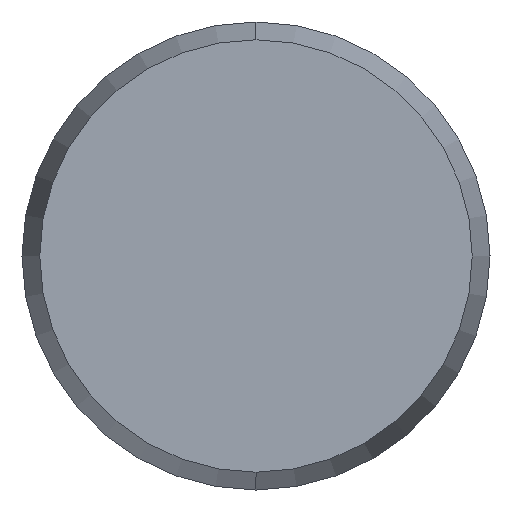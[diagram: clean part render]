
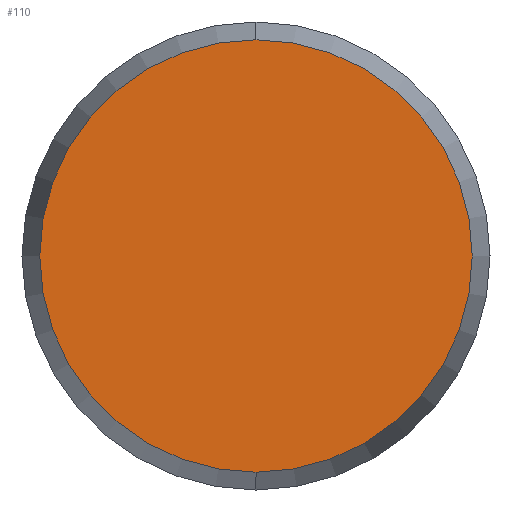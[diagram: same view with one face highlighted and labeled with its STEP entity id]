
A CAD part, left-side view. The second image highlights one B-rep face of the part: STEP entity #110.
In plain terms, the highlighted planar face has unit normal (-1, 0, 0).
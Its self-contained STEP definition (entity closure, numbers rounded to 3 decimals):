
#99 = EDGE_LOOP ( 'NONE', ( #100, #101 ) ) ;
#100 = ORIENTED_EDGE ( 'NONE', *, *, #111, .F. ) ;
#101 = ORIENTED_EDGE ( 'NONE', *, *, #107, .F. ) ;
#107 = EDGE_CURVE ( 'NONE', #113, #112, #206, .T. ) ;
#110 = ADVANCED_FACE ( 'NONE', ( #207 ), #134, .F. ) ;
#111 = EDGE_CURVE ( 'NONE', #112, #113, #135, .T. ) ;
#112 = VERTEX_POINT ( 'NONE', #138 ) ;
#113 = VERTEX_POINT ( 'NONE', #137 ) ;
#130 = DIRECTION ( 'NONE',  ( 1., 0., 0. ) ) ;
#131 = DIRECTION ( 'NONE',  ( 0., 0., -1. ) ) ;
#132 = CARTESIAN_POINT ( 'NONE',  ( -14., 0., 0. ) ) ;
#133 = AXIS2_PLACEMENT_3D ( 'NONE', #132, #130, #131 ) ;
#134 = PLANE ( 'NONE',  #133 ) ;
#135 = CIRCLE ( 'NONE', #136, 5.544 ) ;
#136 = AXIS2_PLACEMENT_3D ( 'NONE', #141, #140, #139 ) ;
#137 = CARTESIAN_POINT ( 'NONE',  ( -14., 0., -5.544 ) ) ;
#138 = CARTESIAN_POINT ( 'NONE',  ( -14., 0., 5.544 ) ) ;
#139 = DIRECTION ( 'NONE',  ( 0., 0., -1. ) ) ;
#140 = DIRECTION ( 'NONE',  ( 1., 0., 0. ) ) ;
#141 = CARTESIAN_POINT ( 'NONE',  ( -14., 0., 0. ) ) ;
#189 = DIRECTION ( 'NONE',  ( 0., 0., -1. ) ) ;
#190 = DIRECTION ( 'NONE',  ( 1., 0., 0. ) ) ;
#204 = CARTESIAN_POINT ( 'NONE',  ( -14., 0., 0. ) ) ;
#205 = AXIS2_PLACEMENT_3D ( 'NONE', #204, #190, #189 ) ;
#206 = CIRCLE ( 'NONE', #205, 5.544 ) ;
#207 = FACE_OUTER_BOUND ( 'NONE', #99, .T. ) ;
